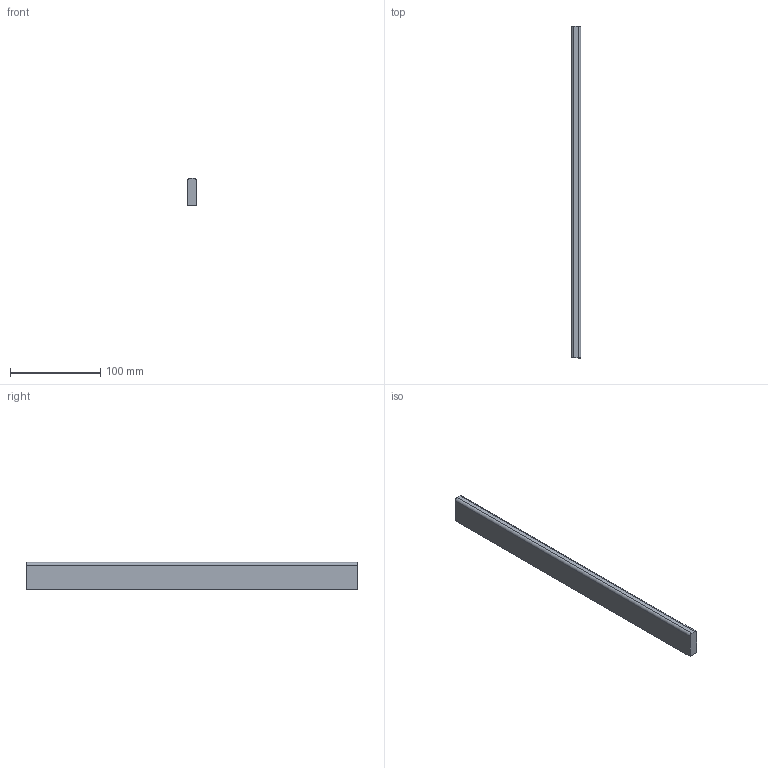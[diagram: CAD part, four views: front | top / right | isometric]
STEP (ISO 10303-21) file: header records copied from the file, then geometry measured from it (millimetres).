
FILE_DESCRIPTION (( 'STEP AP214' ), '1' );
FILE_NAME ('_Seitenreling_SP60700300_RL367,1.step', '2010-09-06T14:52:18', ( 'grass' ), ( '' ), 'SwSTEP 2.0', 'SolidWorks 2010', '' );
FILE_SCHEMA (( 'AUTOMOTIVE_DESIGN' ));
Length unit declared in the file: millimetre
Products named in the file (1): _Seitenreling_SP60700300_RL367,1
Bounding box: 10.5 x 367.1 x 30 mm (x, y, z)
Volume: 114218.5 mm3; surface area: 29412 mm2
Topology: 1 solids, 1 shells, 8 faces, 18 edges, 12 vertices
Faces by surface type: plane 6, cylinder 2
Entity records: 260 total; most frequent: DIRECTION 40, CARTESIAN_POINT 39, ORIENTED_EDGE 36, EDGE_CURVE 18, VECTOR 14, LINE 14, AXIS2_PLACEMENT_3D 13, VERTEX_POINT 12
